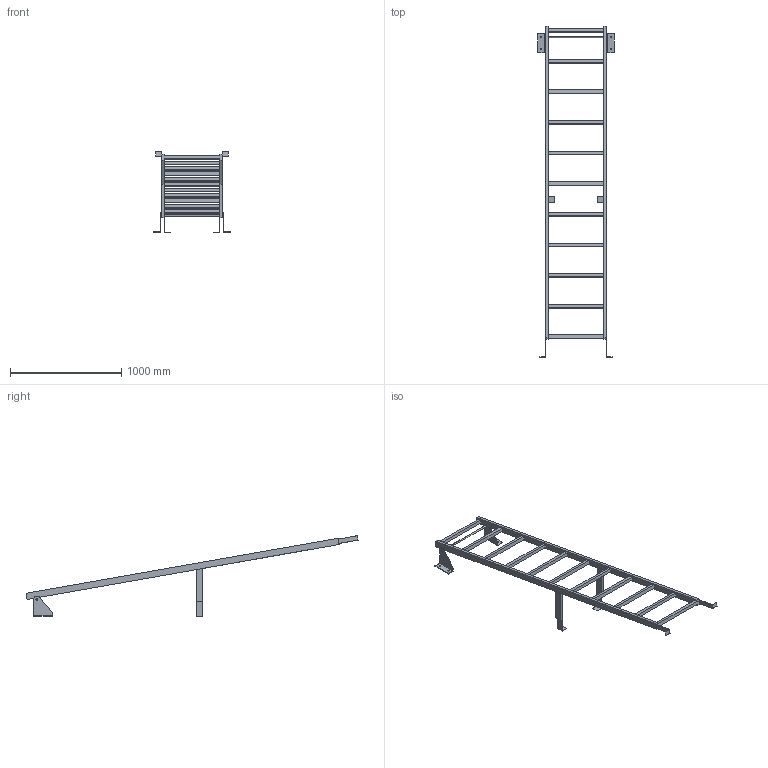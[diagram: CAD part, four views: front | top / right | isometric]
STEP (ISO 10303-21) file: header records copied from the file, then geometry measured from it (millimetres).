
FILE_DESCRIPTION((''),'2;1');
FILE_NAME('52309767','2024-10-17T09:01:39',('wep'),('HUBER SE'),'CREO PARAMETRIC BY PTC INC, 2022162','CREO PARAMETRIC BY PTC INC, 2022162','');
FILE_SCHEMA(('AUTOMOTIVE_DESIGN { 1 0 10303 214 1 1 1 1 }'));
Length unit declared in the file: millimetre
Products named in the file (1): 52309767
Bounding box: 690 x 2986.48 x 724.03 mm (x, y, z)
Volume: 14431209.7 mm3; surface area: 1956994.2 mm2
Topology: 6 solids, 6 shells, 128 faces, 336 edges, 224 vertices
Faces by surface type: plane 112, cylinder 16
Entity records: 4515 total; most frequent: CARTESIAN_POINT 690, ORIENTED_EDGE 672, DIRECTION 624, EDGE_CURVE 336, VECTOR 304, LINE 304, VERTEX_POINT 224, EDGE_LOOP 164
